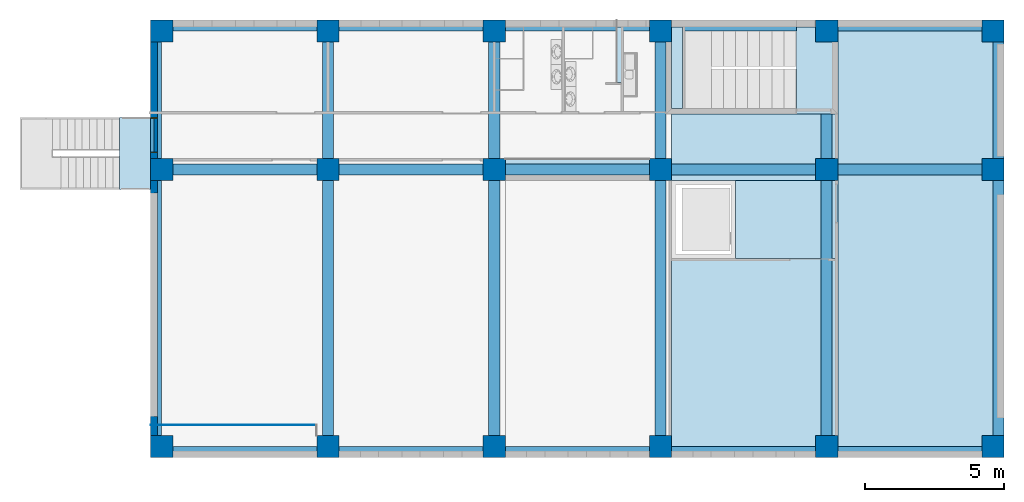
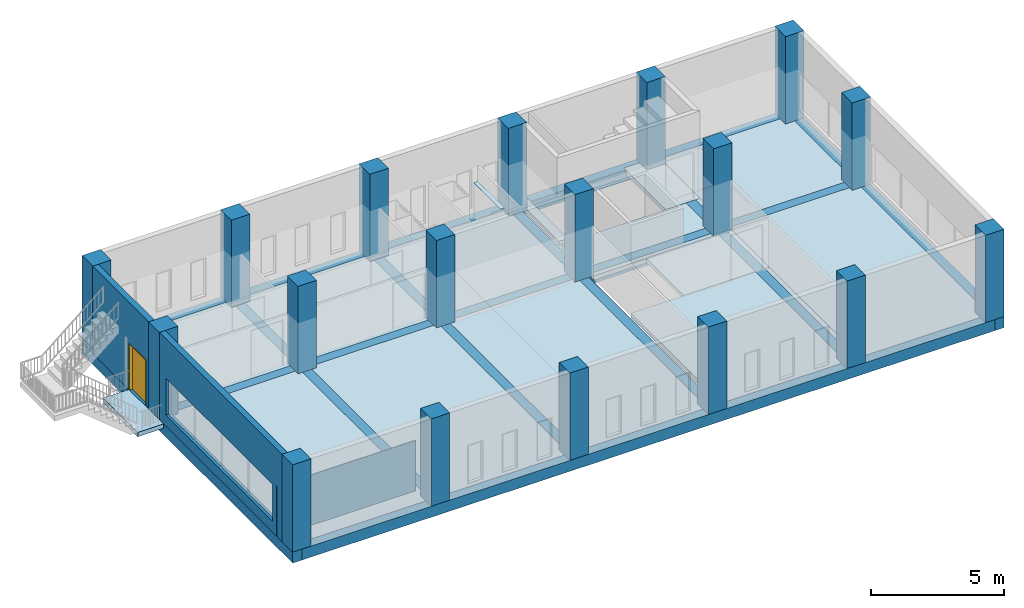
# One storey, part 1 of 14: 18 columns, 9 beams, 9 slabs, 2 walls, 1 door, 2 openings.
"""IFC2X3 building model written with IfcOpenShell, lengths in millimetres."""

from ifc_helpers import new_model, entity, si_unit, converted_unit, direction, frame, frame_2d, origin_with_axes, origin_2d_with_axis, place, context, project, spatial, polyline, rectangle, outline, extrude, open_shell, surface_model, material, layer, layer_set, layer_usage, type_object, element, fill, save


model = new_model("IFC2X3")

# Units and contexts
model_context = context("Model", 3, precision=1e-05, world=origin_with_axes(), true_north=direction((0.0, 1.0)))
ifc_project = project(units=[si_unit("LENGTHUNIT", "METRE", prefix="MILLI"), si_unit("AREAUNIT", "SQUARE_METRE"), si_unit("VOLUMEUNIT", "CUBIC_METRE"), converted_unit("PLANEANGLEUNIT", "DEGREE", entity("IfcPlaneAngleMeasure", 0.017453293), si_unit("PLANEANGLEUNIT", "RADIAN"), dimensions=[0, 0, 0, 0, 0, 0, 0]), si_unit("SOLIDANGLEUNIT", "STERADIAN"), si_unit("MASSUNIT", "GRAM"), si_unit("TIMEUNIT", "SECOND"), si_unit("THERMODYNAMICTEMPERATUREUNIT", "DEGREE_CELSIUS"), si_unit("LUMINOUSINTENSITYUNIT", "LUMEN")], contexts=[model_context])

# Site, building, storey
site_placement = place(None, origin_with_axes())
site = spatial("IfcSite", under=ifc_project, at=site_placement, Name="\x83T\x83C\x83g", CompositionType="ELEMENT")
building_placement = place(site_placement, origin_with_axes())
building = spatial("IfcBuilding", under=site, at=building_placement, Name="Daitec-Sample 201208", CompositionType="ELEMENT")
storey_placement = place(building_placement, frame((0.0, 0.0, 4000.0), z_axis=(0.0, 0.0, 1.0), x_axis=(1.0, 0.0, 0.0)))
storey = spatial("IfcBuildingStorey", under=building, at=storey_placement, Name="2F", CompositionType="ELEMENT", Elevation=4000.0)

# Columns
ifc_material_1 = material(Name="\x83R\x83\x93\x83N\x83\x8a\x81[\x83g-\x8d\\\x91¢2")
column_type = type_object("IfcColumnType", Name="800X800", PredefinedType="NOTDEFINED")
for number, where, z_axis, x_axis, name in (
    (1, (12500.0, 23400.0, 0.0), (0.0, 0.0, 1.0), (1.0, 0.0, 0.0), "C3"),
    (2, (12500.0, 8400.0, 0.0), (0.0, 0.0, 1.0), (1.0, 0.0, 0.0), "C2"),
    (3, (18500.0, 23400.0, 0.0), (0.0, 0.0, 1.0), (1.0, 0.0, 0.0), "C1"),
    (4, (30500.0, 18400.0, 0.0), (0.0, 0.0, 1.0), (1.0, 0.0, 0.0), "C9"),
    (5, (6500.0, 8400.0, 0.0), (0.0, 0.0, 1.0), (1.0, 0.0, 0.0), "C1"),
    (6, (30500.0, 23400.0, 0.0), (0.0, 0.0, 1.0), (1.0, 0.0, 0.0), "C9"),
    (7, (24500.0, 23400.0, 0.0), (0.0, 0.0, 1.0), (1.0, 0.0, 0.0), "C0"),
    (8, (24500.0, 18400.0, 0.0), (0.0, 0.0, 1.0), (1.0, 0.0, 0.0), "C8"),
    (9, (36500.0, 18400.0, 0.0), (0.0, 0.0, 1.0), (1.0, 0.0, 0.0), "C7"),
    (10, (36500.0, 23400.0, 0.0), (0.0, 0.0, 1.0), (1.0, 0.0, 0.0), "C8"),
    (11, (12500.0, 18400.0, 0.0), (0.0, 0.0, 1.0), (1.0, 0.0, 0.0), "C6"),
    (12, (30500.0, 8400.0, 0.0), (0.0, 0.0, 1.0), (1.0, 0.0, 0.0), "C5"),
    (13, (18500.0, 18400.0, 0.0), (0.0, 0.0, 1.0), (1.0, 0.0, 0.0), "C7"),
    (14, (36500.0, 8400.0, 0.0), (0.0, 0.0, 1.0), (1.0, 0.0, 0.0), "C6"),
    (15, (6500.0, 23400.0, 0.0), (0.0, 0.0, 1.0), (1.0, 0.0, 0.0), "C4"),
    (16, (18500.0, 8400.0, 0.0), (0.0, 0.0, 1.0), (1.0, 0.0, 0.0), "C3"),
    (17, (6500.0, 18400.0, 0.0), (0.0, 0.0, 1.0), (1.0, 0.0, 0.0), "C5"),
    (18, (24500.0, 8400.0, 0.0), (0.0, 0.0, 1.0), (1.0, 0.0, 0.0), "C4"),
):
    element("IfcColumn", number, at=place(storey_placement, frame(where, z_axis=z_axis, x_axis=x_axis)), inside=storey, type_object=column_type, material=ifc_material_1, Name=name, ObjectType="800X800", context=model_context, shape_type="SweptSolid", body=[
        extrude(rectangle(XDim=800.0, YDim=800.0, at=origin_2d_with_axis()), origin_with_axes(), (0.0, 0.0, 1.0), 4000.0),
    ])

# Beams
beam_type = type_object("IfcBeamType", Name="500X400", PredefinedType="NOTDEFINED")
for number, where, z_axis, x_axis, name in (
    (19, (24500.0, 23000.0, 0.0), (0.0, 0.0, 1.0), (-1.0, 0.0, 0.0), "G2"),
    (20, (30500.0, 23000.0, 0.0), (0.0, 0.0, 1.0), (-1.0, 0.0, 0.0), "G3"),
    (21, (12500.0, 23000.0, 0.0), (0.0, 0.0, 1.0), (-1.0, 0.0, 0.0), "G0"),
    (22, (18500.0, 23000.0, 0.0), (0.0, 0.0, 1.0), (-1.0, 0.0, 0.0), "G1"),
):
    element("IfcBeam", number, at=place(storey_placement, frame(where, z_axis=z_axis, x_axis=x_axis)), inside=storey, type_object=beam_type, material=ifc_material_1, Name=name, ObjectType="500X400", context=model_context, shape_type="SweptSolid", body=[
        extrude(rectangle(XDim=500.0, YDim=400.0, at=frame_2d((-250.0, 0.0), x_axis=(1.0, 0.0))), frame((0.0, 0.0, 0.0), z_axis=(0.0, 1.0, 0.0), x_axis=(0.0, 0.0, 1.0)), (0.0, 0.0, 1.0), 14200.0),
    ])
beam_1_placement = place(storey_placement, frame((36900.0, 23800.0, 0.0), z_axis=(0.0, 0.0, 1.0), x_axis=(0.0, 1.0, 0.0)))
element("IfcBeam", 23, at=beam_1_placement, inside=storey, type_object=beam_type, material=ifc_material_1, Name="G8", ObjectType="500X400", context=model_context, shape_type="SweptSolid", body=[
    extrude(rectangle(XDim=500.0, YDim=400.0, at=frame_2d((-250.0, -200.0), x_axis=(1.0, 0.0))), frame((0.0, 0.0, 0.0), z_axis=(0.0, 1.0, 0.0), x_axis=(0.0, 0.0, 1.0)), (0.0, 0.0, 1.0), 30800.0),
])
beam_2_placement = place(storey_placement, frame((6100.0, 23800.0, 0.0), z_axis=(0.0, 0.0, 1.0), x_axis=(-1.0, 0.0, 0.0)))
element("IfcBeam", 24, at=beam_2_placement, inside=storey, type_object=beam_type, material=ifc_material_1, Name="G9", ObjectType="500X400", context=model_context, shape_type="SweptSolid", body=[
    extrude(rectangle(XDim=500.0, YDim=400.0, at=frame_2d((-250.0, -200.0), x_axis=(1.0, 0.0))), frame((0.0, 0.0, 0.0), z_axis=(0.0, 1.0, 0.0), x_axis=(0.0, 0.0, 1.0)), (0.0, 0.0, 1.0), 15800.0),
])
beam_3_placement = place(storey_placement, frame((6100.0, 8000.0, 0.0), z_axis=(0.0, 0.0, 1.0), x_axis=(0.0, -1.0, 0.0)))
element("IfcBeam", 25, at=beam_3_placement, inside=storey, type_object=beam_type, material=ifc_material_1, Name="G6", ObjectType="500X400", context=model_context, shape_type="SweptSolid", body=[
    extrude(rectangle(XDim=500.0, YDim=400.0, at=frame_2d((-250.0, -200.0), x_axis=(1.0, 0.0))), frame((0.0, 0.0, 0.0), z_axis=(0.0, 1.0, 0.0), x_axis=(0.0, 0.0, 1.0)), (0.0, 0.0, 1.0), 30800.0),
])
beam_4_placement = place(storey_placement, frame((36900.0, 8000.0, 0.0), z_axis=(0.0, 0.0, 1.0), x_axis=(1.0, 0.0, 0.0)))
element("IfcBeam", 26, at=beam_4_placement, inside=storey, type_object=beam_type, material=ifc_material_1, Name="G7", ObjectType="500X400", context=model_context, shape_type="SweptSolid", body=[
    extrude(rectangle(XDim=500.0, YDim=400.0, at=frame_2d((-250.0, -200.0), x_axis=(1.0, 0.0))), frame((0.0, 0.0, 0.0), z_axis=(0.0, 1.0, 0.0), x_axis=(0.0, 0.0, 1.0)), (0.0, 0.0, 1.0), 15800.0),
])
beam_5_placement = place(storey_placement, frame((6900.0, 18400.0, 0.0), z_axis=(0.0, 0.0, 1.0), x_axis=(0.0, -1.0, 0.0)))
element("IfcBeam", 27, at=beam_5_placement, inside=storey, type_object=beam_type, material=ifc_material_1, Name="G4", ObjectType="500X400", context=model_context, shape_type="SweptSolid", body=[
    extrude(rectangle(XDim=500.0, YDim=400.0, at=frame_2d((-250.0, 0.0), x_axis=(1.0, 0.0))), frame((0.0, 0.0, 0.0), z_axis=(0.0, 1.0, 0.0), x_axis=(0.0, 0.0, 1.0)), (0.0, 0.0, 1.0), 29200.0),
])

# Slabs
ifc_layer_1 = layer(ifc_material_1, 200.0, ventilated="UNKNOWN")
ifc_layer_set_1 = layer_set([ifc_layer_1], Name="\x83R\x83\x93\x83N\x83\x8a\x81[\x83g-\x8d\\\x91¢2 200")
ifc_layer_usage_1 = layer_usage(ifc_layer_set_1, "AXIS3", "NEGATIVE", 200.0)
slab_1_placement = place(storey_placement, frame((6100.0, 20284.787, -200.0), z_axis=(0.0, 0.0, 1.0), x_axis=(1.0, 0.0, 0.0)))
element("IfcSlab", 28, at=slab_1_placement, inside=storey, material=ifc_layer_usage_1, Name="S9", PredefinedType="FLOOR", context=model_context, shape_type="SweptSolid", body=[
    extrude(outline(polyline([(0.0, 0.0), (-1116.2075, 0.0), (-1116.2075, -2600.0), (0.0, -2600.0), (0.0, 0.0)])), origin_with_axes(), (0.0, 0.0, 1.0), 200.0),
])
ifc_material_2 = material(Name="\x83v\x83\x89\x83X\x83^\x81[\x83{\x81[\x83h")
ifc_layer_2 = layer(ifc_material_2, 200.0, ventilated="UNKNOWN")
ifc_layer_set_2 = layer_set([ifc_layer_2], Name="\x83v\x83\x89\x83X\x83^\x81[\x83{\x81[\x83h 200")
ifc_layer_usage_2 = layer_usage(ifc_layer_set_2, "AXIS3", "NEGATIVE", 200.0)
slab_2_placement = place(storey_placement, frame((30900.0, 20399.909, -200.0), z_axis=(0.0, 0.0, 1.0), x_axis=(1.0, 0.0, 0.0)))
element("IfcSlab", 29, at=slab_2_placement, inside=storey, material=ifc_layer_usage_2, Name="S3", PredefinedType="FLOOR", context=model_context, shape_type="SweptSolid", body=[
    extrude(outline(polyline([(0.0, 0.0), (0.0, 3150.0911), (-1489.6717, 3150.0911), (-1489.6717, 0.0), (0.0, 0.0)])), origin_with_axes(), (0.0, 0.0, 1.0), 200.0),
])
ifc_layer_usage_3 = layer_usage(ifc_layer_set_1, "AXIS3", "NEGATIVE", 200.0)
slab_3_placement = place(storey_placement, frame((27200.0, 18000.0, -200.0), z_axis=(0.0, 0.0, 1.0), x_axis=(1.0, 0.0, 0.0)))
element("IfcSlab", 30, at=slab_3_placement, inside=storey, material=ifc_layer_usage_3, Name="S3", PredefinedType="FLOOR", context=model_context, shape_type="SweptSolid", body=[
    extrude(outline(polyline([(0.0, 0.0), (0.0, -2800.0), (3700.0, -2800.0), (3700.0, 0.0), (0.0, 0.0)])), origin_with_axes(), (0.0, 0.0, 1.0), 200.0),
])
ifc_layer_usage_4 = layer_usage(ifc_layer_set_1, "AXIS3", "NEGATIVE", 200.0)
slab_4_placement = place(storey_placement, frame((24900.0, 20399.909, -200.0), z_axis=(0.0, 0.0, 1.0), x_axis=(1.0, 0.0, 0.0)))
element("IfcSlab", 31, at=slab_4_placement, inside=storey, material=ifc_layer_usage_4, Name="S2", PredefinedType="FLOOR", context=model_context, shape_type="SweptSolid", body=[
    extrude(outline(polyline([(0.0, 0.0), (0.0, -2399.9089), (6000.0, -2399.9089), (6000.0, 0.0), (0.0, 0.0)])), origin_with_axes(), (0.0, 0.0, 1.0), 200.0),
])
ifc_layer_usage_5 = layer_usage(ifc_layer_set_1, "AXIS3", "NEGATIVE", 200.0)
slab_5_placement = place(storey_placement, frame((36650.0, 8250.0, -200.0), z_axis=(0.0, 0.0, 1.0), x_axis=(1.0, 0.0, 0.0)))
element("IfcSlab", 32, at=slab_5_placement, inside=storey, material=ifc_layer_usage_5, Name="S1", PredefinedType="FLOOR", context=model_context, shape_type="SweptSolid", body=[
    extrude(outline(polyline([(0.0, 0.0), (0.0, 15300.0), (-5750.0, 15300.0), (-5750.0, 0.0), (0.0, 0.0)])), origin_with_axes(), (0.0, 0.0, 1.0), 200.0),
])
ifc_layer_usage_6 = layer_usage(ifc_layer_set_1, "AXIS3", "NEGATIVE", 200.0)
slab_6_placement = place(storey_placement, frame((24900.0, 8250.0, -200.0), z_axis=(0.0, 0.0, 1.0), x_axis=(1.0, 0.0, 0.0)))
element("IfcSlab", 33, at=slab_6_placement, inside=storey, material=ifc_layer_usage_6, Name="S0", PredefinedType="FLOOR", context=model_context, shape_type="SweptSolid", body=[
    extrude(outline(polyline([(0.0, 0.0), (6000.0, 0.0), (6000.0, 6950.0), (0.0, 6950.0), (0.0, 0.0)])), origin_with_axes(), (0.0, 0.0, 1.0), 200.0),
])
ifc_layer_3 = layer(ifc_material_2, 10.0, ventilated="UNKNOWN")
ifc_layer_set_3 = layer_set([ifc_layer_3], Name="\x83v\x83\x89\x83X\x83^\x81[\x83{\x81[\x83h 10")
ifc_layer_usage_7 = layer_usage(ifc_layer_set_3, "AXIS3", "NEGATIVE", 10.0)
slab_7_placement = place(storey_placement, frame((22919.95, 23550.0, 1590.0), z_axis=(0.0, 0.0, 1.0), x_axis=(1.0, 0.0, 0.0)))
element("IfcSlab", 34, at=slab_7_placement, inside=storey, material=ifc_layer_usage_7, Name="S2", PredefinedType="FLOOR", context=model_context, shape_type="SweptSolid", body=[
    extrude(outline(polyline([(0.0, 0.0), (0.0, -2010.0), (171.88725, -2010.0), (171.88725, 0.0), (0.0, 0.0)])), origin_with_axes(), (0.0, 0.0, 1.0), 10.0),
])
ifc_layer_usage_8 = layer_usage(ifc_layer_set_2, "AXIS3", "NEGATIVE", 200.0)
slab_8_placement = place(storey_placement, frame((24900.0, 23550.0, -200.0), z_axis=(0.0, 0.0, 1.0), x_axis=(1.0, 0.0, 0.0)))
element("IfcSlab", 35, at=slab_8_placement, inside=storey, material=ifc_layer_usage_8, Name="S4", PredefinedType="FLOOR", context=model_context, shape_type="SweptSolid", body=[
    extrude(outline(polyline([(0.0, 0.0), (0.0, -2950.0), (393.97347, -2950.0), (393.97347, 0.0), (0.0, 0.0)])), origin_with_axes(), (0.0, 0.0, 1.0), 200.0),
])
ifc_layer_usage_9 = layer_usage(ifc_layer_set_2, "AXIS3", "NEGATIVE", 200.0)
slab_9_placement = place(storey_placement, frame((6350.0, 8250.0, -200.0), z_axis=(0.0, 0.0, 1.0), x_axis=(1.0, 0.0, 0.0)))
element("IfcSlab", 36, at=slab_9_placement, inside=storey, material=ifc_layer_usage_9, Name="S8", PredefinedType="FLOOR", context=model_context, shape_type="SweptSolid", body=[
    extrude(outline(polyline([(0.0, 0.0), (18371.204, 0.0), (18371.204, 15300.0), (0.0, 15300.0), (0.0, 0.0)])), origin_with_axes(), (0.0, 0.0, 1.0), 200.0),
])

# Wall, openings, door
ifc_layer_4 = layer(ifc_material_1, 250.0, ventilated="UNKNOWN")
ifc_layer_set_4 = layer_set([ifc_layer_4], Name="\x83R\x83\x93\x83N\x83\x8a\x81[\x83g-\x8d\\\x91¢2 250")
ifc_layer_usage_10 = layer_usage(ifc_layer_set_4, "AXIS2", "POSITIVE", 0.0)
wall_type_1 = type_object("IfcWallType", Name="\x83R\x83\x93\x83N\x83\x8a\x81[\x83g-\x8d\\\x91¢2 250", PredefinedType="NOTDEFINED")
wall_1_placement = place(storey_placement, frame((6100.0, 23800.0, 0.0), z_axis=(0.0, 0.0, 1.0), x_axis=(0.0, -1.0, 0.0)))
wall_1 = element("IfcWallStandardCase", 37, at=wall_1_placement, inside=storey, type_object=wall_type_1, material=ifc_layer_usage_10, Name="W9", context=model_context, shape_type="SweptSolid", body=[
    extrude(outline(polyline([(0.0, 0.0), (15800.0, 0.0), (15550.0, 250.0), (250.0, 250.0), (0.0, 0.0)])), origin_with_axes(), (0.0, 0.0, 1.0), 4000.0),
])
opening_1_placement = place(wall_1_placement, frame((10282.79, 0.0, 500.0), z_axis=(0.0, 0.0, 1.0), x_axis=(1.0, 0.0, 0.0)))
element("IfcOpeningElement", 38, at=opening_1_placement, cuts=wall_1, context=model_context, shape_type="SweptSolid", body=[
    extrude(rectangle(XDim=8000.0, YDim=1700.0, at=origin_2d_with_axis()), frame((0.0, 251.0, 850.0), z_axis=(0.0, -1.0, 0.0), x_axis=(1.0, 0.0, 0.0)), (0.0, 0.0, 1.0), 252.0),
    extrude(rectangle(XDim=8000.0, YDim=1700.0, at=origin_2d_with_axis()), frame((0.0, 249.0, 850.0), z_axis=(0.0, 1.0, 0.0), x_axis=(1.0, 0.0, 0.0)), (0.0, 0.0, 1.0), 252.0),
    extrude(rectangle(XDim=8060.0, YDim=1760.0, at=origin_2d_with_axis()), frame((0.0, 124.0, 850.0), z_axis=(0.0, 1.0, 0.0), x_axis=(1.0, 0.0, 0.0)), (0.0, 0.0, 1.0), 252.0),
])
opening_2_placement = place(wall_1_placement, frame((4155.9596, 0.0, 0.0), z_axis=(0.0, 0.0, 1.0), x_axis=(1.0, 0.0, 0.0)))
opening_2 = element("IfcOpeningElement", 39, at=opening_2_placement, cuts=wall_1, context=model_context, shape_type="SweptSolid", body=[
    extrude(rectangle(XDim=1260.0, YDim=2130.0, at=origin_2d_with_axis()), frame((0.0, 126.0, 1065.0), z_axis=(0.0, -1.0, 0.0), x_axis=(1.0, 0.0, 0.0)), (0.0, 0.0, 1.0), 252.0),
])
ifc_material_3 = material(Name="\x94w\x8ci")
door_style = type_object("IfcDoorStyle", ConstructionType="NOTDEFINED", OperationType="NOTDEFINED", ParameterTakesPrecedence=False, Sizeable=False)
door_placement = place(opening_2_placement, frame((-600.0, 0.0, 0.0), z_axis=(0.0, 0.0, 1.0), x_axis=(1.0, 0.0, 0.0)))
door = element("IfcDoor", 40, at=door_placement, inside=storey, type_object=door_style, material=ifc_material_3, Name="SD7", OverallHeight=2100.0, OverallWidth=1200.0, context=model_context, shape_type="SurfaceModel", body=[
    surface_model("IfcShellBasedSurfaceModel", [(1200.0, 125.0, 0.0), (1200.0, 125.0, 2100.0), (0.0, 125.0, 2100.0), (0.0, 125.0, 0.0)], [open_shell([[[0, 1, 2, 3]]])]),
    surface_model("IfcShellBasedSurfaceModel", [(1230.0, 0.0, 0.0), (1230.0, 0.0, 2130.0), (-30.0, 0.0, 2130.0), (-30.0, 0.0, 0.0), (0.0, 0.0, 0.0), (0.0, 0.0, 2100.0), (1200.0, 0.0, 2100.0), (1200.0, 0.0, 0.0)], [open_shell([[[0, 1, 2, 3, 4, 5, 6, 7]]])]),
    surface_model("IfcShellBasedSurfaceModel", [(1230.0, 250.0, 0.0), (1230.0, 250.0, 2130.0), (-30.0, 250.0, 2130.0), (-30.0, 250.0, 0.0), (0.0, 250.0, 0.0), (0.0, 250.0, 2100.0), (1200.0, 250.0, 2100.0), (1200.0, 250.0, 0.0)], [open_shell([[[0, 1, 2, 3, 4, 5, 6, 7]]])]),
    surface_model("IfcShellBasedSurfaceModel", [(1200.0, 0.0, 0.0), (1200.0, 0.0, 2100.0), (1200.0, 250.0, 2100.0), (1200.0, 250.0, 0.0), (0.0, 0.0, 2100.0), (0.0, 250.0, 2100.0), (1230.0, 0.0, 0.0), (1230.0, 250.0, 0.0), (0.0, 0.0, 0.0), (0.0, 250.0, 0.0), (1230.0, 0.0, 2130.0), (1230.0, 250.0, 2130.0), (-30.0, 0.0, 0.0), (-30.0, 250.0, 0.0), (-30.0, 0.0, 2130.0), (-30.0, 250.0, 2130.0)], [open_shell([[[0, 1, 2, 3]], [[1, 4, 5, 2]], [[6, 0, 3, 7]], [[4, 8, 9, 5]], [[10, 6, 7, 11]], [[8, 12, 13, 9]], [[14, 10, 11, 15]], [[12, 14, 15, 13]]])]),
])
fill(opening_2, door)

# Wall
ifc_material_4 = material(Name="\x83X\x83`\x81[\x83\x8b")
ifc_layer_5 = layer(ifc_material_4, 20.0, ventilated="UNKNOWN")
ifc_layer_set_5 = layer_set([ifc_layer_5], Name="\x83X\x83`\x81[\x83\x8b 20")
ifc_layer_usage_11 = layer_usage(ifc_layer_set_5, "AXIS2", "NEGATIVE", 0.0)
wall_type_2 = type_object("IfcWallType", Name="\x83X\x83`\x81[\x83\x8b 20", PredefinedType="NOTDEFINED")
wall_2_placement = place(storey_placement, frame((6100.0, 9200.0, 0.0), z_axis=(0.0, 0.0, 1.0), x_axis=(1.0, 0.0, 0.0)))
element("IfcWallStandardCase", 41, at=wall_2_placement, inside=storey, type_object=wall_type_2, material=ifc_layer_usage_11, Name="W0", context=model_context, shape_type="SweptSolid", body=[
    extrude(outline(polyline([(0.0, -20.0), (6000.0, -20.0), (6000.0, 0.0), (0.0, 0.0), (0.0, -20.0)])), origin_with_axes(), (0.0, 0.0, 1.0), 2300.0),
])

save(model, "model.ifc")
